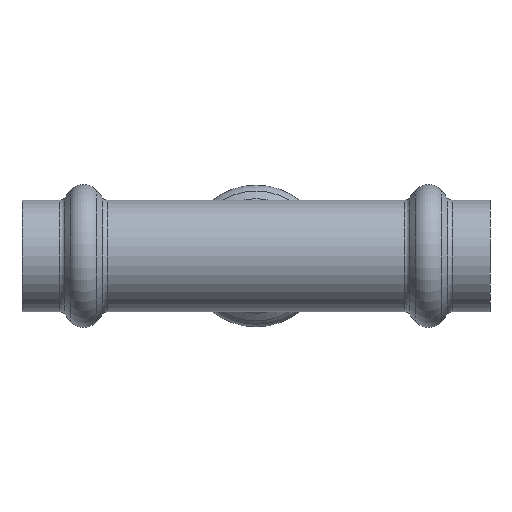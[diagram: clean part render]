
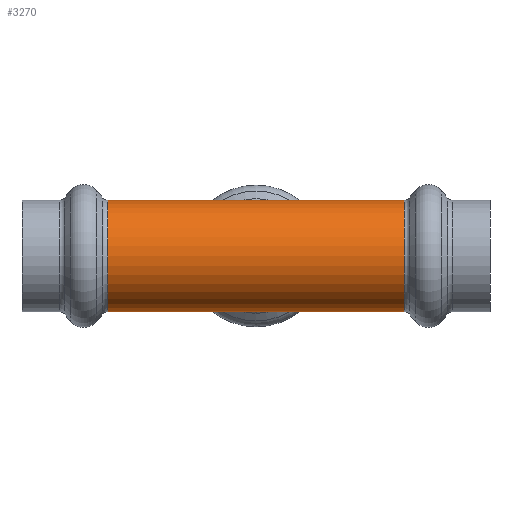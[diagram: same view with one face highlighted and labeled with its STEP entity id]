
A CAD part, front view. The second image highlights one B-rep face of the part: STEP entity #3270.
In plain terms, the highlighted cylindrical face has radius 9.05 mm (diameter 18.1 mm), a partial arc.
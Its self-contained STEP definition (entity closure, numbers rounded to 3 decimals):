
#146 = LINE ( 'NONE', #501, #2395 ) ;
#425 = VERTEX_POINT ( 'NONE', #3627 ) ;
#457 = CARTESIAN_POINT ( 'NONE',  ( -24.1, 0., 0. ) ) ;
#484 = EDGE_CURVE ( 'NONE', #2998, #2269, #146, .T. ) ;
#501 = CARTESIAN_POINT ( 'NONE',  ( -58.611, 0., 9.05 ) ) ;
#781 = AXIS2_PLACEMENT_3D ( 'NONE', #810, #3125, #3437 ) ;
#804 = DIRECTION ( 'NONE',  ( 0., 0., -1. ) ) ;
#810 = CARTESIAN_POINT ( 'NONE',  ( -58.611, 0., 0. ) ) ;
#1151 = DIRECTION ( 'NONE',  ( -1., 0., 0. ) ) ;
#1189 = FACE_OUTER_BOUND ( 'NONE', #2949, .T. ) ;
#1397 = VECTOR ( 'NONE', #3180, 1000. ) ;
#1609 = CIRCLE ( 'NONE', #3015, 9.05 ) ;
#1683 = CARTESIAN_POINT ( 'NONE',  ( 24.1, 0., 0. ) ) ;
#1710 = CIRCLE ( 'NONE', #3731, 9.05 ) ;
#1813 = EDGE_CURVE ( 'NONE', #425, #2998, #1710, .T. ) ;
#1876 = ORIENTED_EDGE ( 'NONE', *, *, #3779, .T. ) ;
#1987 = CARTESIAN_POINT ( 'NONE',  ( -24.1, 0., -9.05 ) ) ;
#2010 = DIRECTION ( 'NONE',  ( 0., 0., 1. ) ) ;
#2269 = VERTEX_POINT ( 'NONE', #3453 ) ;
#2395 = VECTOR ( 'NONE', #1151, 1000. ) ;
#2402 = ORIENTED_EDGE ( 'NONE', *, *, #1813, .T. ) ;
#2619 = ORIENTED_EDGE ( 'NONE', *, *, #484, .T. ) ;
#2684 = VERTEX_POINT ( 'NONE', #1987 ) ;
#2789 = DIRECTION ( 'NONE',  ( 1., 0., 0. ) ) ;
#2849 = CARTESIAN_POINT ( 'NONE',  ( -58.611, 0., -9.05 ) ) ;
#2949 = EDGE_LOOP ( 'NONE', ( #3915, #2402, #2619, #1876 ) ) ;
#2998 = VERTEX_POINT ( 'NONE', #3689 ) ;
#3015 = AXIS2_PLACEMENT_3D ( 'NONE', #457, #2789, #804 ) ;
#3125 = DIRECTION ( 'NONE',  ( -1., 0., 0. ) ) ;
#3180 = DIRECTION ( 'NONE',  ( -1., 0., 0. ) ) ;
#3270 = ADVANCED_FACE ( 'NONE', ( #1189 ), #3413, .T. ) ;
#3413 = CYLINDRICAL_SURFACE ( 'NONE', #781, 9.05 ) ;
#3437 = DIRECTION ( 'NONE',  ( 0., 0., 1. ) ) ;
#3453 = CARTESIAN_POINT ( 'NONE',  ( -24.1, 0., 9.05 ) ) ;
#3627 = CARTESIAN_POINT ( 'NONE',  ( 24.1, 0., -9.05 ) ) ;
#3689 = CARTESIAN_POINT ( 'NONE',  ( 24.1, 0., 9.05 ) ) ;
#3731 = AXIS2_PLACEMENT_3D ( 'NONE', #1683, #3957, #2010 ) ;
#3779 = EDGE_CURVE ( 'NONE', #2269, #2684, #1609, .T. ) ;
#3915 = ORIENTED_EDGE ( 'NONE', *, *, #3935, .F. ) ;
#3935 = EDGE_CURVE ( 'NONE', #425, #2684, #3978, .T. ) ;
#3957 = DIRECTION ( 'NONE',  ( -1., 0., 0. ) ) ;
#3978 = LINE ( 'NONE', #2849, #1397 ) ;
